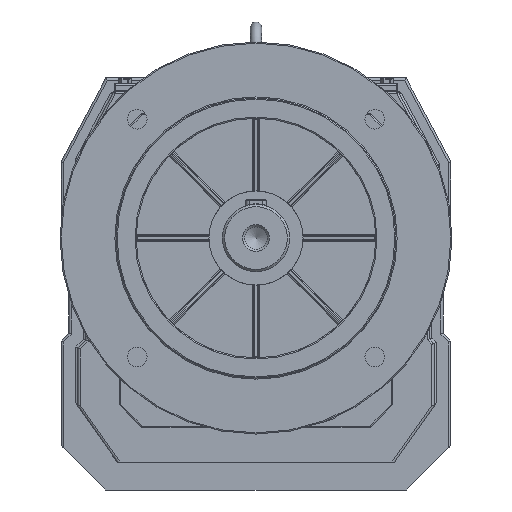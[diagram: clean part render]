
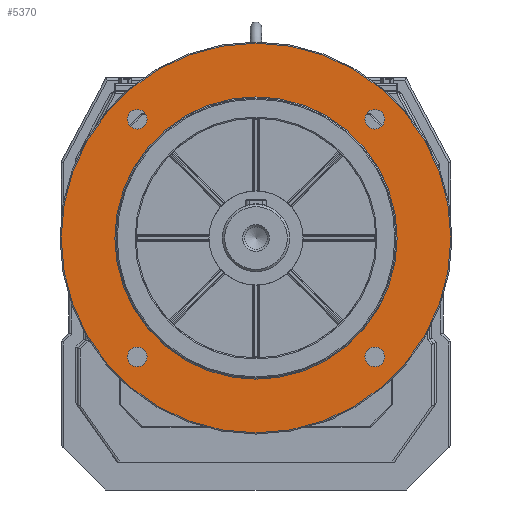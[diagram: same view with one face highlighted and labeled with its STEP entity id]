
A CAD part, front view. The second image highlights one B-rep face of the part: STEP entity #5370.
In plain terms, the highlighted planar face has unit normal (0, -1, 0).
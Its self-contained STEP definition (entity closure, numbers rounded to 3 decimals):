
#5292=CARTESIAN_POINT('',(0.0,-195.0,399.0));
#5293=VERTEX_POINT('',#5292);
#5294=CARTESIAN_POINT('',(0.0,-195.0,225.));
#5295=DIRECTION('',(0.0,1.0,0.0));
#5296=DIRECTION('',(0.0,0.0,-1.0));
#5297=AXIS2_PLACEMENT_3D('',#5294,#5295,#5296);
#5298=CIRCLE('',#5297,174.);
#5299=EDGE_CURVE('',#5293,#5293,#5298,.T.);
#5307=CARTESIAN_POINT('',(0.0,-195.0,375.0));
#5308=DIRECTION('',(0.0,-1.0,0.0));
#5309=DIRECTION('',(0.0,0.0,-1.0));
#5310=AXIS2_PLACEMENT_3D('',#5307,#5308,#5309);
#5311=PLANE('',#5310);
#5312=ORIENTED_EDGE('',*,*,#5299,.F.);
#5313=EDGE_LOOP('',(#5312));
#5314=FACE_OUTER_BOUND('',#5313,.T.);
#5315=CARTESIAN_POINT('',(0.,-195.0,351.0));
#5316=VERTEX_POINT('',#5315);
#5317=CARTESIAN_POINT('',(0.0,-195.0,225.));
#5318=DIRECTION('',(0.0,-1.0,0.0));
#5319=DIRECTION('',(0.0,0.0,-1.0));
#5320=AXIS2_PLACEMENT_3D('',#5317,#5318,#5319);
#5321=CIRCLE('',#5320,126.);
#5322=EDGE_CURVE('',#5316,#5316,#5321,.T.);
#5323=ORIENTED_EDGE('',*,*,#5322,.F.);
#5324=EDGE_LOOP('',(#5323));
#5325=FACE_BOUND('',#5324,.T.);
#5326=CARTESIAN_POINT('',(-97.316,-195.0,331.066));
#5327=VERTEX_POINT('',#5326);
#5328=CARTESIAN_POINT('',(-106.066,-195.0,331.066));
#5329=DIRECTION('',(0.0,1.0,0.0));
#5330=DIRECTION('',(1.0,0.0,0.0));
#5331=AXIS2_PLACEMENT_3D('',#5328,#5329,#5330);
#5332=CIRCLE('',#5331,8.75);
#5333=EDGE_CURVE('',#5327,#5327,#5332,.T.);
#5334=ORIENTED_EDGE('',*,*,#5333,.T.);
#5335=EDGE_LOOP('',(#5334));
#5336=FACE_BOUND('',#5335,.T.);
#5337=CARTESIAN_POINT('',(114.816,-195.0,331.066));
#5338=VERTEX_POINT('',#5337);
#5339=CARTESIAN_POINT('',(106.066,-195.0,331.066));
#5340=DIRECTION('',(0.0,1.0,0.0));
#5341=DIRECTION('',(1.0,0.0,0.0));
#5342=AXIS2_PLACEMENT_3D('',#5339,#5340,#5341);
#5343=CIRCLE('',#5342,8.75);
#5344=EDGE_CURVE('',#5338,#5338,#5343,.T.);
#5345=ORIENTED_EDGE('',*,*,#5344,.T.);
#5346=EDGE_LOOP('',(#5345));
#5347=FACE_BOUND('',#5346,.T.);
#5348=CARTESIAN_POINT('',(114.816,-195.0,118.934));
#5349=VERTEX_POINT('',#5348);
#5350=CARTESIAN_POINT('',(106.066,-195.0,118.934));
#5351=DIRECTION('',(0.0,1.0,0.0));
#5352=DIRECTION('',(1.0,0.0,0.0));
#5353=AXIS2_PLACEMENT_3D('',#5350,#5351,#5352);
#5354=CIRCLE('',#5353,8.75);
#5355=EDGE_CURVE('',#5349,#5349,#5354,.T.);
#5356=ORIENTED_EDGE('',*,*,#5355,.T.);
#5357=EDGE_LOOP('',(#5356));
#5358=FACE_BOUND('',#5357,.T.);
#5359=CARTESIAN_POINT('',(-97.316,-195.0,118.934));
#5360=VERTEX_POINT('',#5359);
#5361=CARTESIAN_POINT('',(-106.066,-195.0,118.934));
#5362=DIRECTION('',(0.0,1.0,0.0));
#5363=DIRECTION('',(1.0,0.0,0.0));
#5364=AXIS2_PLACEMENT_3D('',#5361,#5362,#5363);
#5365=CIRCLE('',#5364,8.75);
#5366=EDGE_CURVE('',#5360,#5360,#5365,.T.);
#5367=ORIENTED_EDGE('',*,*,#5366,.T.);
#5368=EDGE_LOOP('',(#5367));
#5369=FACE_BOUND('',#5368,.T.);
#5370=ADVANCED_FACE('',(#5314,#5325,#5336,#5347,#5358,#5369),#5311,.T.);
